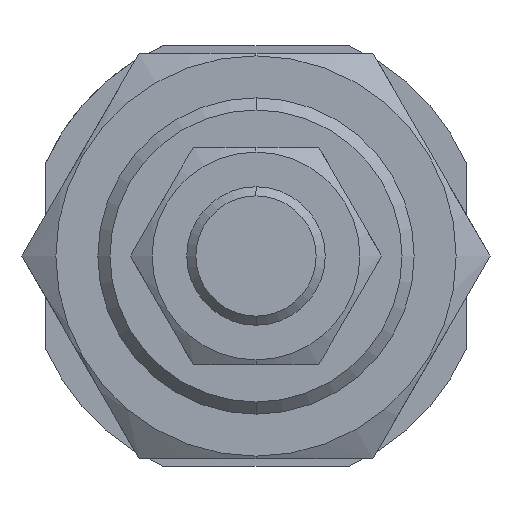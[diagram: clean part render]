
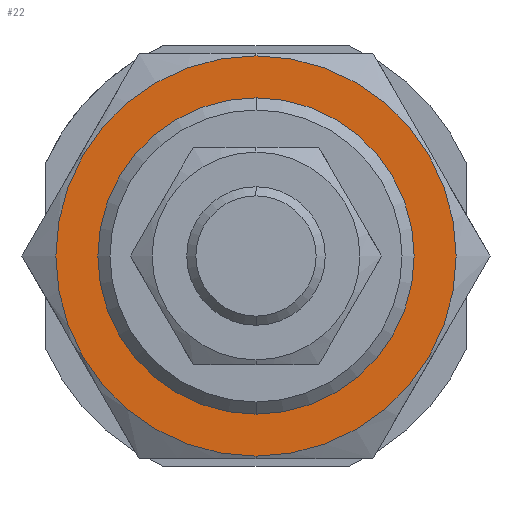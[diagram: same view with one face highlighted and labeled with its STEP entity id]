
A CAD part, left-side view. The second image highlights one B-rep face of the part: STEP entity #22.
In plain terms, the highlighted planar face has unit normal (-1, 0, 0).
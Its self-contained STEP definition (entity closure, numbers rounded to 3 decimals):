
#22 = ADVANCED_FACE ( 'NONE', ( #5186, #2936 ), #1222, .F. ) ;
#702 = DIRECTION ( 'NONE',  ( 1., 0., 0. ) ) ;
#721 = VERTEX_POINT ( 'NONE', #5395 ) ;
#845 = DIRECTION ( 'NONE',  ( 0., 0., -1. ) ) ;
#860 = VERTEX_POINT ( 'NONE', #3895 ) ;
#894 = CARTESIAN_POINT ( 'NONE',  ( -13., 0., 0. ) ) ;
#976 = ORIENTED_EDGE ( 'NONE', *, *, #5719, .T. ) ;
#1075 = CIRCLE ( 'NONE', #4963, 16. ) ;
#1105 = DIRECTION ( 'NONE',  ( 1., 0., 0. ) ) ;
#1187 = ORIENTED_EDGE ( 'NONE', *, *, #3383, .T. ) ;
#1222 = PLANE ( 'NONE',  #2229 ) ;
#1333 = CARTESIAN_POINT ( 'NONE',  ( -13., 0., 16. ) ) ;
#1443 = EDGE_CURVE ( 'NONE', #860, #721, #2595, .T. ) ;
#1574 = EDGE_LOOP ( 'NONE', ( #3930, #4072 ) ) ;
#1738 = DIRECTION ( 'NONE',  ( 1., 0., 0. ) ) ;
#2229 = AXIS2_PLACEMENT_3D ( 'NONE', #3864, #702, #2992 ) ;
#2345 = CIRCLE ( 'NONE', #4825, 20.25 ) ;
#2595 = CIRCLE ( 'NONE', #5556, 20.25 ) ;
#2756 = DIRECTION ( 'NONE',  ( 0., 0., -1. ) ) ;
#2873 = CARTESIAN_POINT ( 'NONE',  ( -13., 0., 0. ) ) ;
#2924 = DIRECTION ( 'NONE',  ( 0., 0., -1. ) ) ;
#2936 = FACE_BOUND ( 'NONE', #5075, .T. ) ;
#2992 = DIRECTION ( 'NONE',  ( 0., 1., 0. ) ) ;
#3038 = DIRECTION ( 'NONE',  ( 0., 0., -1. ) ) ;
#3047 = CARTESIAN_POINT ( 'NONE',  ( -13., 0., 0. ) ) ;
#3233 = CIRCLE ( 'NONE', #3962, 16. ) ;
#3254 = DIRECTION ( 'NONE',  ( 1., 0., 0. ) ) ;
#3383 = EDGE_CURVE ( 'NONE', #4399, #4808, #3233, .T. ) ;
#3439 = CARTESIAN_POINT ( 'NONE',  ( -13., 0., -16. ) ) ;
#3561 = EDGE_CURVE ( 'NONE', #721, #860, #2345, .T. ) ;
#3864 = CARTESIAN_POINT ( 'NONE',  ( -13., 0., 0. ) ) ;
#3895 = CARTESIAN_POINT ( 'NONE',  ( -13., 0., -20.25 ) ) ;
#3930 = ORIENTED_EDGE ( 'NONE', *, *, #1443, .F. ) ;
#3962 = AXIS2_PLACEMENT_3D ( 'NONE', #2873, #1105, #2924 ) ;
#4072 = ORIENTED_EDGE ( 'NONE', *, *, #3561, .F. ) ;
#4399 = VERTEX_POINT ( 'NONE', #3439 ) ;
#4808 = VERTEX_POINT ( 'NONE', #1333 ) ;
#4825 = AXIS2_PLACEMENT_3D ( 'NONE', #894, #5698, #3038 ) ;
#4963 = AXIS2_PLACEMENT_3D ( 'NONE', #3047, #1738, #845 ) ;
#5075 = EDGE_LOOP ( 'NONE', ( #976, #1187 ) ) ;
#5186 = FACE_OUTER_BOUND ( 'NONE', #1574, .T. ) ;
#5393 = CARTESIAN_POINT ( 'NONE',  ( -13., 0., 0. ) ) ;
#5395 = CARTESIAN_POINT ( 'NONE',  ( -13., 0., 20.25 ) ) ;
#5556 = AXIS2_PLACEMENT_3D ( 'NONE', #5393, #3254, #2756 ) ;
#5698 = DIRECTION ( 'NONE',  ( 1., 0., 0. ) ) ;
#5719 = EDGE_CURVE ( 'NONE', #4808, #4399, #1075, .T. ) ;
